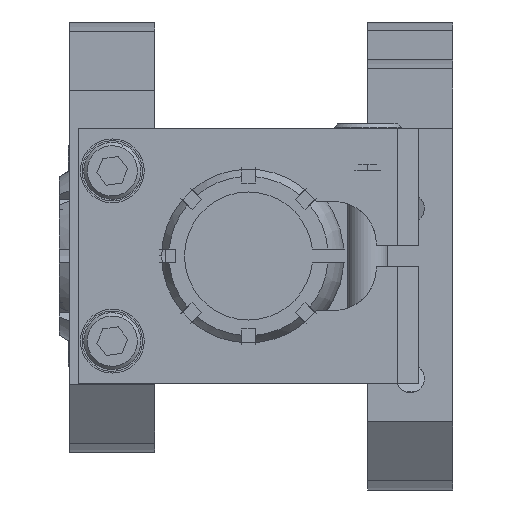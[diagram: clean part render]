
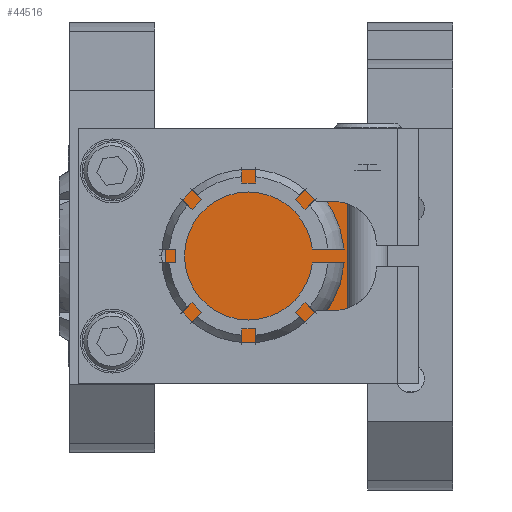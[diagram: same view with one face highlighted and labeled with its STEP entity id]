
A CAD part, left-side view. The second image highlights one B-rep face of the part: STEP entity #44516.
In plain terms, the highlighted planar face has unit normal (-1, 0, 0) as drawn and (0, 0, -1) by its records, which use the part's own axes.
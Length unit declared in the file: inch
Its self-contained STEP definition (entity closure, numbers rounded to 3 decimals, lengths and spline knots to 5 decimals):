
#1517 = EDGE_CURVE ( 'NONE', #18570, #18563, #56024, .T. ) ;
#12949 = DIRECTION ( 'NONE',  ( 1., 0., 0. ) ) ;
#12950 = DIRECTION ( 'NONE',  ( 0., 0., 1. ) ) ;
#12951 = CARTESIAN_POINT ( 'NONE',  ( 0., 1.25, -0.375 ) ) ;
#12952 = PLANE ( 'NONE',  #32217 ) ;
#17334 = DIRECTION ( 'NONE',  ( -1., 0., 0. ) ) ;
#17335 = CARTESIAN_POINT ( 'NONE',  ( 0., 1.25, -0.375 ) ) ;
#18563 = VERTEX_POINT ( 'NONE', #40326 ) ;
#18570 = VERTEX_POINT ( 'NONE', #40321 ) ;
#18821 = VERTEX_POINT ( 'NONE', #40185 ) ;
#18828 = VERTEX_POINT ( 'NONE', #40182 ) ;
#19754 = LINE ( 'NONE', #29530, #19756 ) ;
#19756 = VECTOR ( 'NONE', #29529, 39.37008 ) ;
#19763 = LINE ( 'NONE', #29520, #19764 ) ;
#19764 = VECTOR ( 'NONE', #29519, 39.37008 ) ;
#19766 = LINE ( 'NONE', #29518, #19768 ) ;
#19768 = VECTOR ( 'NONE', #29517, 39.37008 ) ;
#20962 = ORIENTED_EDGE ( 'NONE', *, *, #25966, .T. ) ;
#20963 = ORIENTED_EDGE ( 'NONE', *, *, #25961, .F. ) ;
#20964 = ORIENTED_EDGE ( 'NONE', *, *, #1517, .F. ) ;
#20965 = ORIENTED_EDGE ( 'NONE', *, *, #25965, .T. ) ;
#25961 = EDGE_CURVE ( 'NONE', #18563, #18821, #19754, .T. ) ;
#25965 = EDGE_CURVE ( 'NONE', #18570, #18828, #19763, .T. ) ;
#25966 = EDGE_CURVE ( 'NONE', #18828, #18821, #19766, .T. ) ;
#29517 = DIRECTION ( 'NONE',  ( -1., 0., 0. ) ) ;
#29518 = CARTESIAN_POINT ( 'NONE',  ( 0., 0., -0.375 ) ) ;
#29519 = DIRECTION ( 'NONE',  ( 0., -1., 0. ) ) ;
#29520 = CARTESIAN_POINT ( 'NONE',  ( 1.5, 1.25, -0.375 ) ) ;
#29529 = DIRECTION ( 'NONE',  ( 0., -1., 0. ) ) ;
#29530 = CARTESIAN_POINT ( 'NONE',  ( 0., 1.25, -0.375 ) ) ;
#32217 = AXIS2_PLACEMENT_3D ( 'NONE', #12951, #12950, #12949 ) ;
#32255 = FACE_OUTER_BOUND ( 'NONE', #44768, .T. ) ;
#40182 = CARTESIAN_POINT ( 'NONE',  ( 1.5, 0., -0.375 ) ) ;
#40185 = CARTESIAN_POINT ( 'NONE',  ( 0., 0., -0.375 ) ) ;
#40321 = CARTESIAN_POINT ( 'NONE',  ( 1.5, 1.25, -0.375 ) ) ;
#40326 = CARTESIAN_POINT ( 'NONE',  ( 0., 1.25, -0.375 ) ) ;
#44516 = ADVANCED_FACE ( 'NONE', ( #32255 ), #12952, .F. ) ;
#44768 = EDGE_LOOP ( 'NONE', ( #20962, #20963, #20964, #20965 ) ) ;
#56024 = LINE ( 'NONE', #17335, #56025 ) ;
#56025 = VECTOR ( 'NONE', #17334, 39.37008 ) ;
